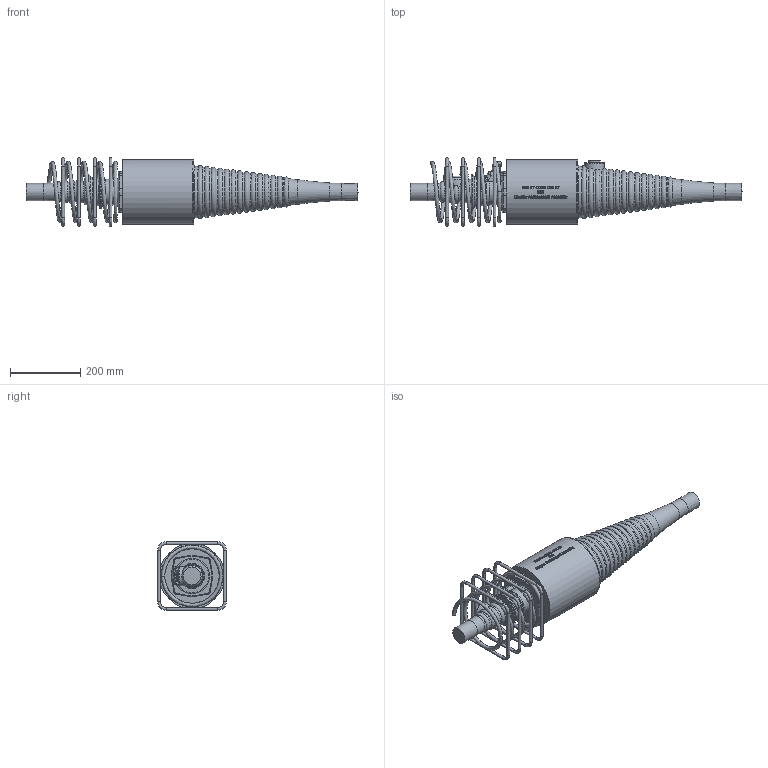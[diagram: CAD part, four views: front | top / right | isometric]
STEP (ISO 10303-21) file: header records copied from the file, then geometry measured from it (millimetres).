
FILE_DESCRIPTION(/* description */ (''),/* implementation_level */ '2;1');
FILE_NAME(/* name */ 'BBR VT CONA CMI BT 306_Coupler H Assembly_CS-34,28.stp',/* time_stamp */ '2025-04-29T14:43:04+02:00',/* author */ ('tk'),/* organization */ (''),/* preprocessor_version */ 'ST-DEVELOPER v20',/* originating_system */ 'Autodesk Inventor 2024',/* authorisation */ '');
FILE_SCHEMA (('AUTOMOTIVE_DESIGN { 1 0 10303 214 3 1 1 }'));
Products named in the file (1): BBR VT CONA CMI BT 306_Coupler H Assembly_CS-34,28
Bounding box: 945.07 x 195 x 195 mm (x, y, z)
Volume: 10388065.5 mm3; surface area: 525776.3 mm2
Topology: 6 solids, 6 shells, 958 faces, 2515 edges, 1624 vertices
Faces by surface type: bspline 399, plane 306, cylinder 112, torus 100, cone 29, sphere 12
Full cylindrical faces by diameter (mm): 8 x16, 32 x1, 34.158 x1, 49 x1, 55 x1, 57 x1, 95 x1, 100 x1, 185 x1
Entity records: 43962 total; most frequent: CARTESIAN_POINT 21489, ORIENTED_EDGE 5020, DIRECTION 3526, EDGE_CURVE 2510, VERTEX_POINT 1624, AXIS2_PLACEMENT_3D 1267, EDGE_LOOP 1026, LINE 992
